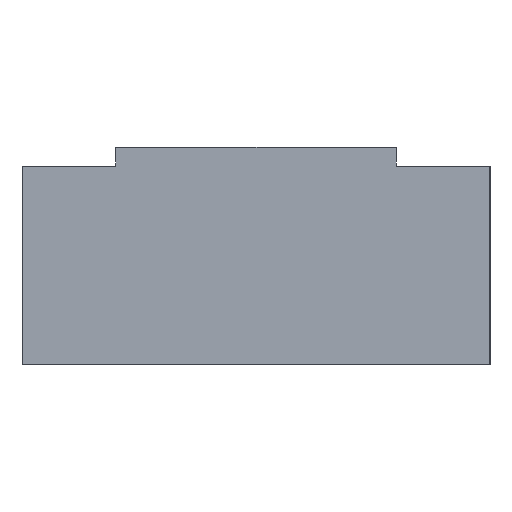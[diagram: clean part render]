
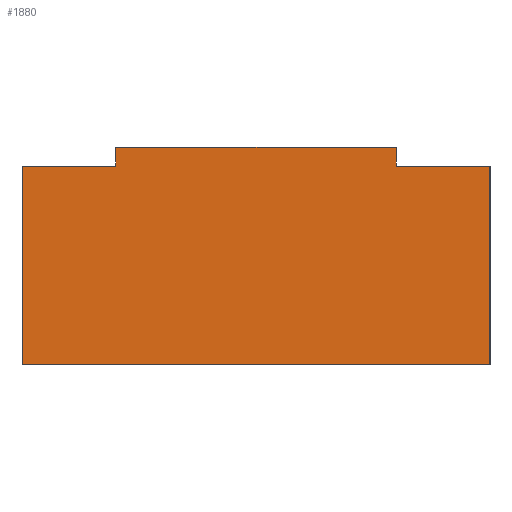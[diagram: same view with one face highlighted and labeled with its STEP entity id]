
A CAD part, left-side view. The second image highlights one B-rep face of the part: STEP entity #1880.
In plain terms, the highlighted planar face has unit normal (-1, 0, 0).
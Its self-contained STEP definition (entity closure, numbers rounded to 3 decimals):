
#47 = VECTOR ( 'NONE', #830, 1000. ) ;
#52 = DIRECTION ( 'NONE',  ( 0., 1., 0. ) ) ;
#75 = CARTESIAN_POINT ( 'NONE',  ( -88., -15., 23.2 ) ) ;
#88 = ORIENTED_EDGE ( 'NONE', *, *, #1397, .F. ) ;
#143 = VECTOR ( 'NONE', #1937, 1000. ) ;
#154 = DIRECTION ( 'NONE',  ( 0., -1., 0. ) ) ;
#247 = AXIS2_PLACEMENT_3D ( 'NONE', #2077, #1080, #52 ) ;
#248 = ORIENTED_EDGE ( 'NONE', *, *, #280, .F. ) ;
#280 = EDGE_CURVE ( 'NONE', #2132, #1515, #1025, .T. ) ;
#283 = VECTOR ( 'NONE', #1476, 1000. ) ;
#319 = CARTESIAN_POINT ( 'NONE',  ( -88., -25., 21.2 ) ) ;
#492 = EDGE_CURVE ( 'NONE', #1144, #1375, #2135, .T. ) ;
#561 = EDGE_CURVE ( 'NONE', #1374, #1303, #664, .T. ) ;
#570 = CARTESIAN_POINT ( 'NONE',  ( -88., 15., 21.2 ) ) ;
#573 = ORIENTED_EDGE ( 'NONE', *, *, #773, .F. ) ;
#574 = VECTOR ( 'NONE', #1435, 1000. ) ;
#647 = CARTESIAN_POINT ( 'NONE',  ( -88., 25., 21.2 ) ) ;
#662 = CARTESIAN_POINT ( 'NONE',  ( -88., -25., 21.2 ) ) ;
#664 = LINE ( 'NONE', #1942, #1850 ) ;
#666 = VECTOR ( 'NONE', #1826, 1000. ) ;
#671 = EDGE_CURVE ( 'NONE', #923, #1144, #1463, .T. ) ;
#707 = ORIENTED_EDGE ( 'NONE', *, *, #671, .T. ) ;
#734 = VERTEX_POINT ( 'NONE', #662 ) ;
#773 = EDGE_CURVE ( 'NONE', #734, #1375, #1415, .T. ) ;
#801 = CARTESIAN_POINT ( 'NONE',  ( -88., 25., 0. ) ) ;
#830 = DIRECTION ( 'NONE',  ( 0., 0., -1. ) ) ;
#839 = ORIENTED_EDGE ( 'NONE', *, *, #1403, .F. ) ;
#920 = LINE ( 'NONE', #1450, #1943 ) ;
#923 = VERTEX_POINT ( 'NONE', #1862 ) ;
#951 = CARTESIAN_POINT ( 'NONE',  ( -88., 25., 21.2 ) ) ;
#1025 = LINE ( 'NONE', #75, #574 ) ;
#1080 = DIRECTION ( 'NONE',  ( 1., 0., 0. ) ) ;
#1125 = EDGE_LOOP ( 'NONE', ( #1644, #573, #839, #248, #88, #1858, #1152, #707 ) ) ;
#1144 = VERTEX_POINT ( 'NONE', #1883 ) ;
#1152 = ORIENTED_EDGE ( 'NONE', *, *, #1355, .F. ) ;
#1212 = FACE_OUTER_BOUND ( 'NONE', #1125, .T. ) ;
#1219 = LINE ( 'NONE', #951, #143 ) ;
#1234 = LINE ( 'NONE', #1828, #2012 ) ;
#1303 = VERTEX_POINT ( 'NONE', #570 ) ;
#1355 = EDGE_CURVE ( 'NONE', #923, #1303, #1219, .T. ) ;
#1374 = VERTEX_POINT ( 'NONE', #1439 ) ;
#1375 = VERTEX_POINT ( 'NONE', #1984 ) ;
#1390 = PLANE ( 'NONE',  #247 ) ;
#1397 = EDGE_CURVE ( 'NONE', #1374, #2132, #920, .T. ) ;
#1403 = EDGE_CURVE ( 'NONE', #1515, #734, #1234, .T. ) ;
#1414 = CARTESIAN_POINT ( 'NONE',  ( -88., -15., 23.2 ) ) ;
#1415 = LINE ( 'NONE', #319, #47 ) ;
#1435 = DIRECTION ( 'NONE',  ( 0., 0., -1. ) ) ;
#1439 = CARTESIAN_POINT ( 'NONE',  ( -88., 15., 23.2 ) ) ;
#1450 = CARTESIAN_POINT ( 'NONE',  ( -88., 15., 23.2 ) ) ;
#1457 = DIRECTION ( 'NONE',  ( 0., -1., 0. ) ) ;
#1463 = LINE ( 'NONE', #647, #666 ) ;
#1476 = DIRECTION ( 'NONE',  ( 0., -1., 0. ) ) ;
#1515 = VERTEX_POINT ( 'NONE', #1676 ) ;
#1644 = ORIENTED_EDGE ( 'NONE', *, *, #492, .T. ) ;
#1676 = CARTESIAN_POINT ( 'NONE',  ( -88., -15., 21.2 ) ) ;
#1826 = DIRECTION ( 'NONE',  ( 0., 0., -1. ) ) ;
#1828 = CARTESIAN_POINT ( 'NONE',  ( -88., 25., 21.2 ) ) ;
#1850 = VECTOR ( 'NONE', #1952, 1000. ) ;
#1858 = ORIENTED_EDGE ( 'NONE', *, *, #561, .T. ) ;
#1862 = CARTESIAN_POINT ( 'NONE',  ( -88., 25., 21.2 ) ) ;
#1880 = ADVANCED_FACE ( 'NONE', ( #1212 ), #1390, .F. ) ;
#1883 = CARTESIAN_POINT ( 'NONE',  ( -88., 25., 0. ) ) ;
#1937 = DIRECTION ( 'NONE',  ( 0., -1., 0. ) ) ;
#1942 = CARTESIAN_POINT ( 'NONE',  ( -88., 15., 23.2 ) ) ;
#1943 = VECTOR ( 'NONE', #1457, 1000. ) ;
#1952 = DIRECTION ( 'NONE',  ( 0., 0., -1. ) ) ;
#1984 = CARTESIAN_POINT ( 'NONE',  ( -88., -25., 0. ) ) ;
#2012 = VECTOR ( 'NONE', #154, 1000. ) ;
#2077 = CARTESIAN_POINT ( 'NONE',  ( -88., 25., 21.2 ) ) ;
#2132 = VERTEX_POINT ( 'NONE', #1414 ) ;
#2135 = LINE ( 'NONE', #801, #283 ) ;
